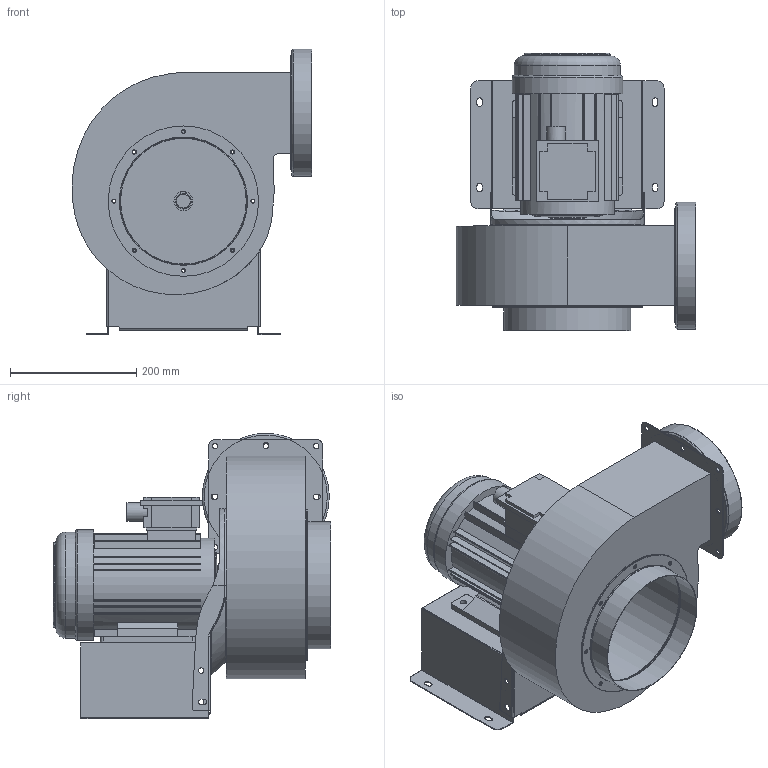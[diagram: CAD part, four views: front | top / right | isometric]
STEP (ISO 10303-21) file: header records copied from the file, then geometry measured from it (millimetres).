
FILE_DESCRIPTION(/* description */ ('Unknown'),/* implementation_level */ '2;1');
FILE_NAME(/* name */ 'CY200A2P3Y-EG-AL & AL-IE3 尺寸一樣 型錄',/* time_stamp */ '2026-04-23T17:34:43+08:00',/* author */ ('Unknown'),/* organization */ ('Unknown'),/* preprocessor_version */ 'ST-DEVELOPER v20',/* originating_system */ 'Solid Edge',/* authorisation */ 'Unknown');
FILE_SCHEMA (('AUTOMOTIVE_DESIGN {1 0 10303 214 3 1 1}'));
Length unit declared in the file: millimetre
Products named in the file (6): CY200A2P3Y-EG-AL & AL-IE3 尺寸一樣; CY200-01; CY200-07+CY190-06; JM2002H2P3-EG-AL(KAF872) & JM2002H2P3-EG-AL-IE3(KAF842) 尺寸圖; CY200-04 + 08; CY200-05
Assembly tree (5 placements, depth 2):
  CY200A2P3Y-EG-AL & AL-IE3 尺寸一樣
    CY200-01
    CY200-07+CY190-06
    JM2002H2P3-EG-AL(KAF872) & JM2002H2P3-EG-AL-IE3(KAF842) 尺寸圖
    CY200-04 + 08
    CY200-05
Bounding box: 379.79 x 438.9 x 451.95 mm (x, y, z)
Volume: 14107665.7 mm3; surface area: 1288585 mm2
Topology: 7 solids, 7 shells, 466 faces, 1236 edges, 812 vertices
Faces by surface type: plane 263, cylinder 170, torus 16, bspline 9, sphere 5, cone 3
Full cylindrical faces by diameter (mm): 5 x8, 6.5 x24, 8.5 x10, 10.1 x4, 11 x2, 24 x1, 24.9 x1, 29.5 x1, 30 x1, 55 x1, 111 x1, 135 x1, 148.5 x1, 168 x1, 175 x1, 199 x2, 201 x2, 203 x1, 205 x2, 238 x2
Entity records: 14573 total; most frequent: CARTESIAN_POINT 2702, DIRECTION 2457, ORIENTED_EDGE 2260, EDGE_CURVE 1130, AXIS2_PLACEMENT_3D 886, VERTEX_POINT 789, EDGE_LOOP 719, FACE_BOUND 719
